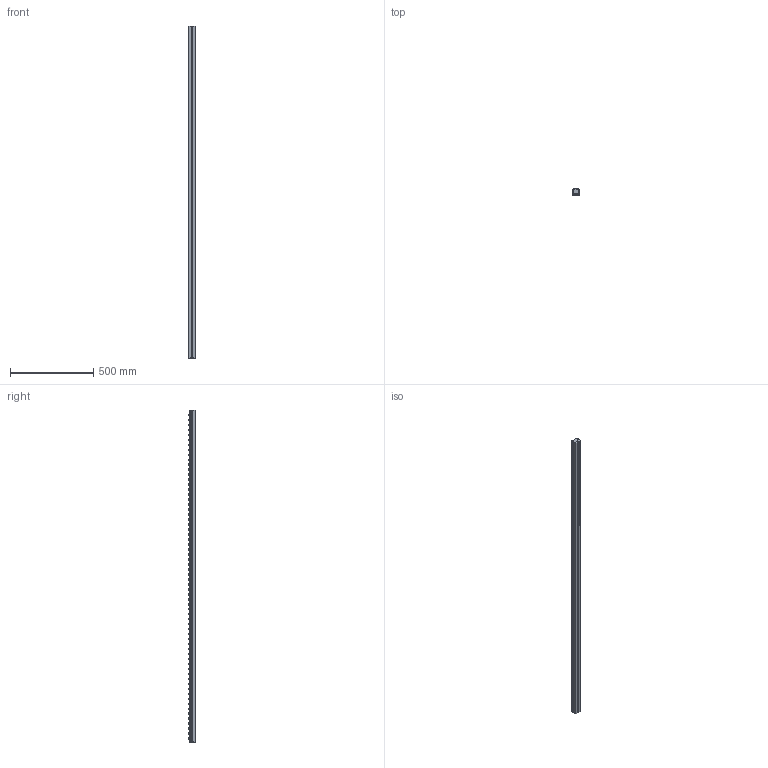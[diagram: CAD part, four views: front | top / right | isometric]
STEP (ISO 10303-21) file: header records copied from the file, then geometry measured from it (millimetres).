
FILE_DESCRIPTION(/* description */ (''),/* implementation_level */ '2;1');
FILE_NAME(/* name */ 'C:\Users\Stefan.Nesic\Desktop\01010STEP\FRT30BK.2000.stp',/* time_stamp */ '2022-06-23T11:03:48+02:00',/* author */ ('stefan.nesic'),/* organization */ (''),/* preprocessor_version */ 'ST-DEVELOPER v18.1',/* originating_system */ 'Autodesk Inventor 2021',/* authorisation */ '');
FILE_SCHEMA (('AUTOMOTIVE_DESIGN { 1 0 10303 214 3 1 1 }'));
Products named in the file (1): FRT45BK.2000
Bounding box: 41 x 38.6 x 2000 mm (x, y, z)
Volume: 1378562.1 mm3; surface area: 952905.9 mm2
Topology: 124 solids, 124 shells, 3584 faces, 9066 edges, 5980 vertices
Faces by surface type: plane 1618, cylinder 1418, cone 396, torus 136, bspline 16
Full cylindrical faces by diameter (mm): 3.5 x132, 7 x132, 28 x66
Entity records: 109147 total; most frequent: DIRECTION 20108, CARTESIAN_POINT 18919, ORIENTED_EDGE 18108, EDGE_CURVE 9054, AXIS2_PLACEMENT_3D 7485, VERTEX_POINT 5980, LINE 5138, VECTOR 5138
